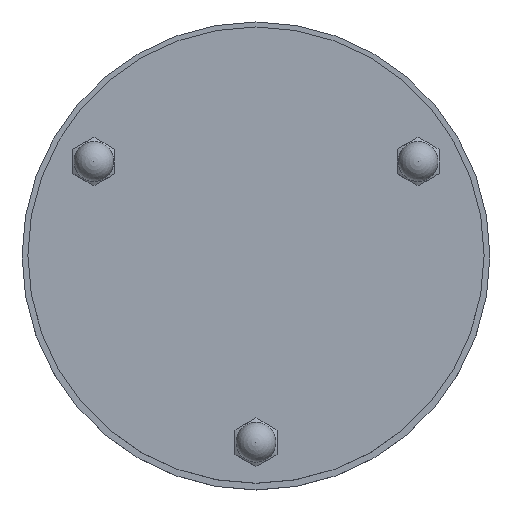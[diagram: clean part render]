
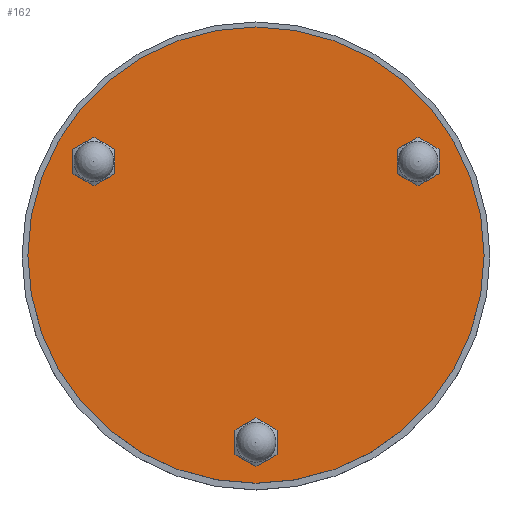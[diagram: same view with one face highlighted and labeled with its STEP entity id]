
A CAD part, top view. The second image highlights one B-rep face of the part: STEP entity #162.
In plain terms, the highlighted planar face has unit normal (0, 0, 1).
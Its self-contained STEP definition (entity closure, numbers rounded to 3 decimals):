
#162=ADVANCED_FACE('',(#863,#865,#867,#869),#871,.T.);
#863=FACE_BOUND('',#864,.T.);
#864=EDGE_LOOP('',(#1628));
#865=FACE_BOUND('',#866,.T.);
#866=EDGE_LOOP('',(#1629));
#867=FACE_BOUND('',#868,.T.);
#868=EDGE_LOOP('',(#1630));
#869=FACE_BOUND('',#870,.T.);
#870=EDGE_LOOP('',(#1631));
#871=PLANE('',#872);
#872=AXIS2_PLACEMENT_3D('',#873,#874,#875);
#873=CARTESIAN_POINT('',(0.,0.,228.));
#874=DIRECTION('',(0.,0.,1.));
#875=DIRECTION('',(-1.,0.,0.));
#1628=ORIENTED_EDGE('',*,*,#2008,.F.);
#1629=ORIENTED_EDGE('',*,*,#2009,.F.);
#1630=ORIENTED_EDGE('',*,*,#2010,.F.);
#1631=ORIENTED_EDGE('',*,*,#2011,.F.);
#2008=EDGE_CURVE('',#2168,#2168,#2169,.T.);
#2009=EDGE_CURVE('',#2170,#2170,#2171,.T.);
#2010=EDGE_CURVE('',#2172,#2172,#2173,.T.);
#2011=EDGE_CURVE('',#2174,#2174,#2175,.T.);
#2168=VERTEX_POINT('',#2429);
#2169=CIRCLE('',#2430,97.5);
#2170=VERTEX_POINT('',#2434);
#2171=CIRCLE('',#2435,8.1);
#2172=VERTEX_POINT('',#2439);
#2173=CIRCLE('',#2440,8.1);
#2174=VERTEX_POINT('',#2444);
#2175=CIRCLE('',#2445,8.1);
#2429=CARTESIAN_POINT('',(-97.5,0.,228.));
#2430=AXIS2_PLACEMENT_3D('',#2431,#2432,#2433);
#2431=CARTESIAN_POINT('',(0.,0.,228.));
#2432=DIRECTION('',(0.,0.,-1.));
#2433=DIRECTION('',(-1.,0.,0.));
#2434=CARTESIAN_POINT('',(76.297,44.05,228.));
#2435=AXIS2_PLACEMENT_3D('',#2436,#2437,#2438);
#2436=CARTESIAN_POINT('',(69.282,40.,228.));
#2437=DIRECTION('',(0.,0.,1.));
#2438=DIRECTION('',(0.866,0.5,0.));
#2439=CARTESIAN_POINT('',(0.,-88.1,228.));
#2440=AXIS2_PLACEMENT_3D('',#2441,#2442,#2443);
#2441=CARTESIAN_POINT('',(0.,-80.,228.));
#2442=DIRECTION('',(0.,0.,1.));
#2443=DIRECTION('',(0.,-1.,0.));
#2444=CARTESIAN_POINT('',(-76.297,44.05,228.));
#2445=AXIS2_PLACEMENT_3D('',#2446,#2447,#2448);
#2446=CARTESIAN_POINT('',(-69.282,40.,228.));
#2447=DIRECTION('',(0.,0.,1.));
#2448=DIRECTION('',(-0.866,0.5,0.));
